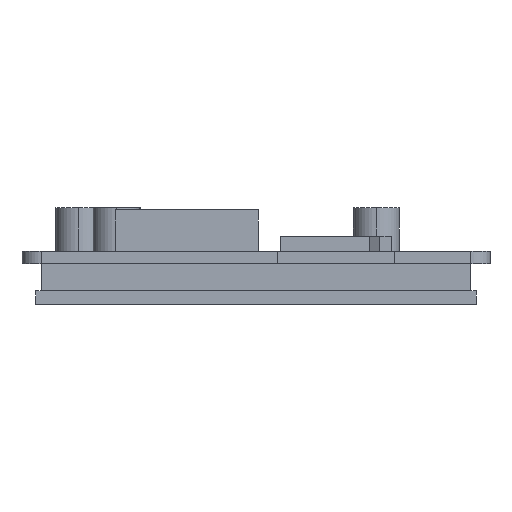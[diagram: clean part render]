
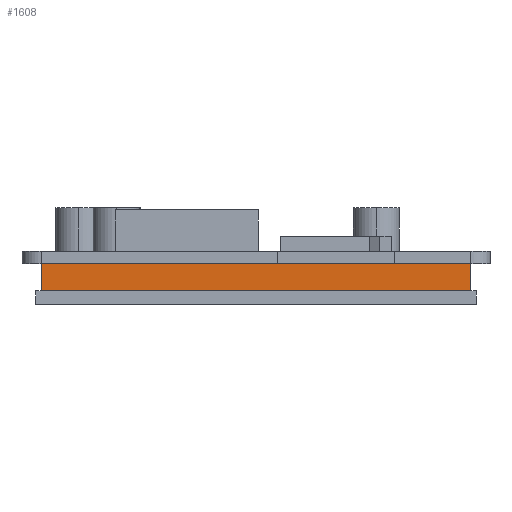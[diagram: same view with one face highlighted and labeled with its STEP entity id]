
A CAD part, left-side view. The second image highlights one B-rep face of the part: STEP entity #1608.
In plain terms, the highlighted planar face has unit normal (-1, 0, 0).
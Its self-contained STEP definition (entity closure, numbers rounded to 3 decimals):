
#331=DIRECTION('',(0.,1.,0.));
#332=VECTOR('',#331,56.8);
#333=CARTESIAN_POINT('',(-45.55,-28.4,-1.6));
#334=LINE('',#333,#332);
#427=DIRECTION('',(0.,0.,-1.));
#428=VECTOR('',#427,3.6);
#429=CARTESIAN_POINT('',(-45.55,28.4,-1.6));
#430=LINE('',#429,#428);
#439=DIRECTION('',(0.,1.,0.));
#440=VECTOR('',#439,56.8);
#441=CARTESIAN_POINT('',(-45.55,-28.4,-5.2));
#442=LINE('',#441,#440);
#527=DIRECTION('',(0.,0.,-1.));
#528=VECTOR('',#527,3.6);
#529=CARTESIAN_POINT('',(-45.55,-28.4,-1.6));
#530=LINE('',#529,#528);
#805=CARTESIAN_POINT('',(-45.55,-28.4,-5.2));
#806=CARTESIAN_POINT('',(-45.55,28.4,-5.2));
#807=VERTEX_POINT('',#805);
#808=VERTEX_POINT('',#806);
#809=CARTESIAN_POINT('',(-45.55,28.4,-1.6));
#811=VERTEX_POINT('',#809);
#815=CARTESIAN_POINT('',(-45.55,-28.4,-1.6));
#816=VERTEX_POINT('',#815);
#1597=CARTESIAN_POINT('',(-45.55,-28.4,-1.6));
#1598=DIRECTION('',(-1.,0.,0.));
#1599=DIRECTION('',(0.,1.,0.));
#1600=AXIS2_PLACEMENT_3D('',#1597,#1598,#1599);
#1601=PLANE('',#1600);
#1602=ORIENTED_EDGE('',*,*,#1138,.F.);
#1603=ORIENTED_EDGE('',*,*,#1589,.T.);
#1604=ORIENTED_EDGE('',*,*,#1456,.T.);
#1605=ORIENTED_EDGE('',*,*,#1443,.F.);
#1606=EDGE_LOOP('',(#1602,#1603,#1604,#1605));
#1607=FACE_OUTER_BOUND('',#1606,.F.);
#1138=EDGE_CURVE('',#816,#811,#334,.T.);
#1443=EDGE_CURVE('',#811,#808,#430,.T.);
#1456=EDGE_CURVE('',#807,#808,#442,.T.);
#1589=EDGE_CURVE('',#816,#807,#530,.T.);
#1608=ADVANCED_FACE('',(#1607),#1601,.T.);
